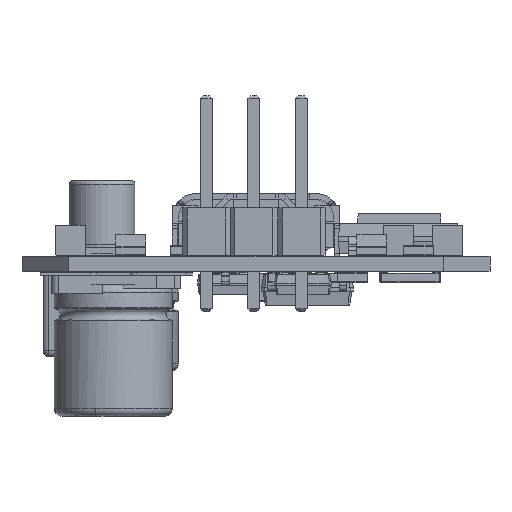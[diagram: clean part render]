
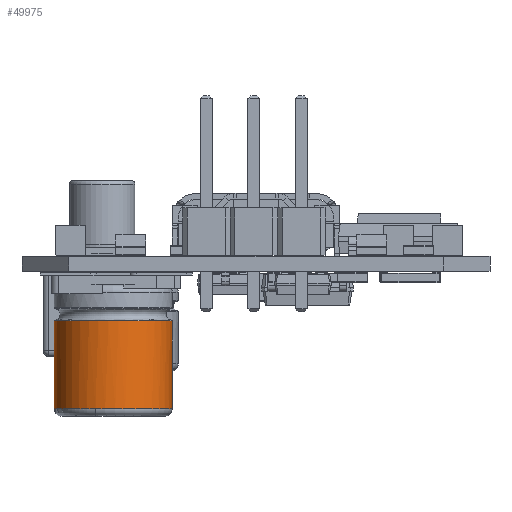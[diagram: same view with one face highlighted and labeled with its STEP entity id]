
A CAD part, front view. The second image highlights one B-rep face of the part: STEP entity #49975.
In plain terms, the highlighted cylindrical face has radius 3.15 mm (diameter 6.3 mm), a full revolution.
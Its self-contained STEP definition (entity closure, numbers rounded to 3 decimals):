
#49641 = VERTEX_POINT('',#49642);
#49642 = CARTESIAN_POINT('',(-3.15,0.,2.593));
#49648 = EDGE_CURVE('',#49641,#49641,#49649,.T.);
#49649 = ( BOUNDED_CURVE() B_SPLINE_CURVE(13,(#49650,#49651,#49652,
    #49653,#49654,#49655,#49656,#49657,#49658,#49659,#49660,#49661,
#49662,#49663),.UNSPECIFIED.,.T.,.F.) B_SPLINE_CURVE_WITH_KNOTS((1,13,13
    ,1),(-19.792,0.,19.792,
39.584),.UNSPECIFIED.) CURVE() GEOMETRIC_REPRESENTATION_ITEM() 
RATIONAL_B_SPLINE_CURVE((1.,1.,1.,1.,
    1.,1.,1.,1.,
    1.,1.,1.,1.,1.,1.)) 
REPRESENTATION_ITEM('') );
#49650 = CARTESIAN_POINT('',(-3.15,0.,2.593));
#49651 = CARTESIAN_POINT('',(-3.15,1.5,
    2.593));
#49652 = CARTESIAN_POINT('',(-2.375,3.035,
    2.593));
#49653 = CARTESIAN_POINT('',(-0.779,4.133,
    2.593));
#49654 = CARTESIAN_POINT('',(1.417,4.302,
    2.593));
#49655 = CARTESIAN_POINT('',(3.314,3.132,
    2.593));
#49656 = CARTESIAN_POINT('',(4.706,1.424,
    2.593));
#49657 = CARTESIAN_POINT('',(4.706,-1.424,
    2.593));
#49658 = CARTESIAN_POINT('',(3.314,-3.132,
    2.593));
#49659 = CARTESIAN_POINT('',(1.417,-4.302,
    2.593));
#49660 = CARTESIAN_POINT('',(-0.779,-4.133,
    2.593));
#49661 = CARTESIAN_POINT('',(-2.375,-3.035,
    2.593));
#49662 = CARTESIAN_POINT('',(-3.15,-1.5,2.593));
#49663 = CARTESIAN_POINT('',(-3.15,0.,2.593));
#49975 = ADVANCED_FACE('',(#49976),#50022,.T.);
#49976 = FACE_BOUND('',#49977,.T.);
#49977 = EDGE_LOOP('',(#49978,#49979,#49987,#49996,#50005,#50014,#50021)
  );
#49978 = ORIENTED_EDGE('',*,*,#49648,.F.);
#49979 = ORIENTED_EDGE('',*,*,#49980,.T.);
#49980 = EDGE_CURVE('',#49641,#49981,#49983,.T.);
#49981 = VERTEX_POINT('',#49982);
#49982 = CARTESIAN_POINT('',(-3.15,0.,7.28));
#49983 = LINE('',#49984,#49985);
#49984 = CARTESIAN_POINT('',(-3.15,0.,2.563));
#49985 = VECTOR('',#49986,1.);
#49986 = DIRECTION('',(0.,0.,1.));
#49987 = ORIENTED_EDGE('',*,*,#49988,.T.);
#49988 = EDGE_CURVE('',#49981,#49989,#49991,.T.);
#49989 = VERTEX_POINT('',#49990);
#49990 = CARTESIAN_POINT('',(0.945,3.005,7.28));
#49991 = CIRCLE('',#49992,3.15);
#49992 = AXIS2_PLACEMENT_3D('',#49993,#49994,#49995);
#49993 = CARTESIAN_POINT('',(0.,0.,7.28));
#49994 = DIRECTION('',(0.,0.,-1.));
#49995 = DIRECTION('',(-1.,0.,0.));
#49996 = ORIENTED_EDGE('',*,*,#49997,.T.);
#49997 = EDGE_CURVE('',#49989,#49998,#50000,.T.);
#49998 = VERTEX_POINT('',#49999);
#49999 = CARTESIAN_POINT('',(3.15,0.,7.28));
#50000 = CIRCLE('',#50001,3.15);
#50001 = AXIS2_PLACEMENT_3D('',#50002,#50003,#50004);
#50002 = CARTESIAN_POINT('',(0.,0.,7.28));
#50003 = DIRECTION('',(0.,0.,-1.));
#50004 = DIRECTION('',(-1.,0.,0.));
#50005 = ORIENTED_EDGE('',*,*,#50006,.T.);
#50006 = EDGE_CURVE('',#49998,#50007,#50009,.T.);
#50007 = VERTEX_POINT('',#50008);
#50008 = CARTESIAN_POINT('',(0.945,-3.005,7.28));
#50009 = CIRCLE('',#50010,3.15);
#50010 = AXIS2_PLACEMENT_3D('',#50011,#50012,#50013);
#50011 = CARTESIAN_POINT('',(0.,0.,7.28));
#50012 = DIRECTION('',(0.,0.,-1.));
#50013 = DIRECTION('',(-1.,0.,0.));
#50014 = ORIENTED_EDGE('',*,*,#50015,.T.);
#50015 = EDGE_CURVE('',#50007,#49981,#50016,.T.);
#50016 = CIRCLE('',#50017,3.15);
#50017 = AXIS2_PLACEMENT_3D('',#50018,#50019,#50020);
#50018 = CARTESIAN_POINT('',(0.,0.,7.28));
#50019 = DIRECTION('',(0.,0.,-1.));
#50020 = DIRECTION('',(-1.,0.,0.));
#50021 = ORIENTED_EDGE('',*,*,#49980,.F.);
#50022 = CYLINDRICAL_SURFACE('',#50023,3.15);
#50023 = AXIS2_PLACEMENT_3D('',#50024,#50025,#50026);
#50024 = CARTESIAN_POINT('',(0.,0.,2.563));
#50025 = DIRECTION('',(0.,0.,1.));
#50026 = DIRECTION('',(-1.,0.,0.));
